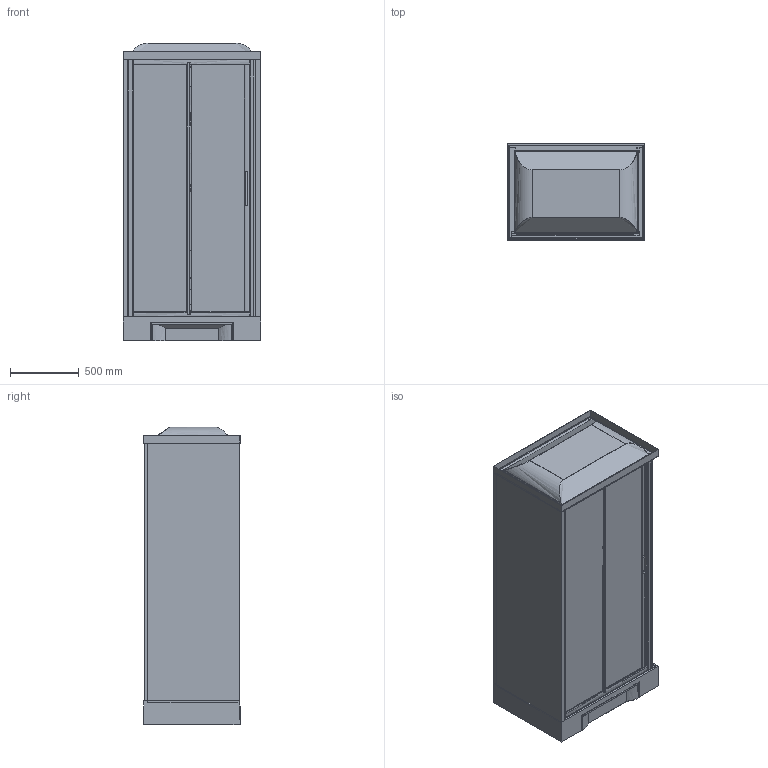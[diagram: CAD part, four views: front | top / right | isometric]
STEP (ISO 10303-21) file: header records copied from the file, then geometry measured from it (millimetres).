
FILE_DESCRIPTION(('STEP AP203'),'2;1');
FILE_NAME('NNH 2P 100 S T T.stp','2015-09-08T09:11:53',(''),(''),'2014.1.117','THINKDESIGN','');
FILE_SCHEMA(('CONFIG_CONTROL_DESIGN'));
Length unit declared in the file: millimetre
Products named in the file (1): top
Bounding box: 1004.05 x 707.53 x 2170 mm (x, y, z)
Volume: 229497711.7 mm3; surface area: 19533432 mm2
Topology: 24 solids, 24 shells, 610 faces, 1607 edges, 1046 vertices
Faces by surface type: bspline 297, plane 271, cylinder 42
Entity records: 65252 total; most frequent: CARTESIAN_POINT 52551, ORIENTED_EDGE 3110, DIRECTION 1645, EDGE_CURVE 1555, VERTEX_POINT 1010, VECTOR 801, LINE 801, EDGE_LOOP 617
